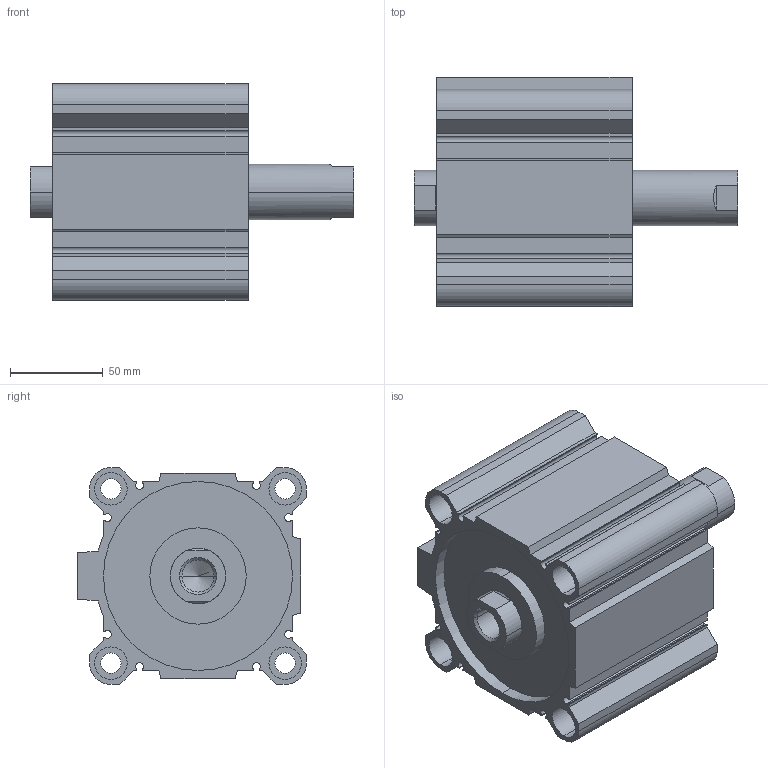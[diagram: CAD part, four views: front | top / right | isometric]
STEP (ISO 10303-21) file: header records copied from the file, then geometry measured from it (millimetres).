
FILE_DESCRIPTION (( 'STEP AP203' ), '1' );
FILE_NAME ('CCMB100-45F-P.STEP', '2020-08-05T11:55:01', ( '' ), ( '' ), 'SwSTEP 2.0', 'SolidWorks 2019', '' );
FILE_SCHEMA (( 'CONFIG_CONTROL_DESIGN' ));
Length unit declared in the file: millimetre
Products named in the file (1): CCMB100-45F-P
Bounding box: 174.5 x 123.5 x 117 mm (x, y, z)
Volume: 851184.4 mm3; surface area: 194273.2 mm2
Topology: 2 solids, 2 shells, 178 faces, 456 edges, 298 vertices
Faces by surface type: plane 90, cylinder 76, cone 12
Entity records: 5495 total; most frequent: DIRECTION 970, CARTESIAN_POINT 941, ORIENTED_EDGE 904, EDGE_CURVE 452, AXIS2_PLACEMENT_3D 343, VERTEX_POINT 298, VECTOR 284, LINE 284
